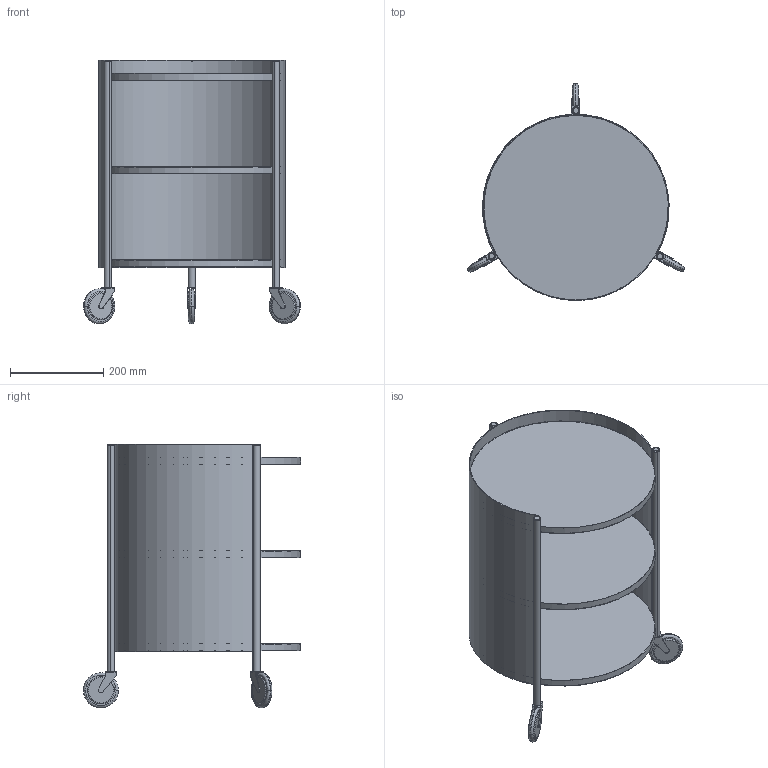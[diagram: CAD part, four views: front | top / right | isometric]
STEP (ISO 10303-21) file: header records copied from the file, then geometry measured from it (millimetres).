
FILE_DESCRIPTION(/* description */ (''),/* implementation_level */ '2;1');
FILE_NAME(/* name */ 'Eve storage_3D',/* time_stamp */ '2023-03-23T11:01:58+01:00',/* author */ (''),/* organization */ (''),/* preprocessor_version */ 'ST-DEVELOPER v16.5',/* originating_system */ 'Rhino 7.28',/* authorisation */ '');
FILE_SCHEMA (('CONFIG_CONTROL_DESIGN'));
Length unit declared in the file: millimetre
Products named in the file (1): Document
Bounding box: 464.35 x 465.51 x 564.93 mm (x, y, z)
Volume: 1792355 mm3; surface area: 1806142 mm2
Topology: 25 solids, 25 shells, 277 faces, 570 edges, 346 vertices
Faces by surface type: plane 163, cylinder 60, bspline 54
Entity records: 7092 total; most frequent: CARTESIAN_POINT 3356, ORIENTED_EDGE 1140, EDGE_CURVE 570, VERTEX_POINT 346, EDGE_LOOP 280, ADVANCED_FACE 277, FACE_OUTER_BOUND 277, DIRECTION 227
